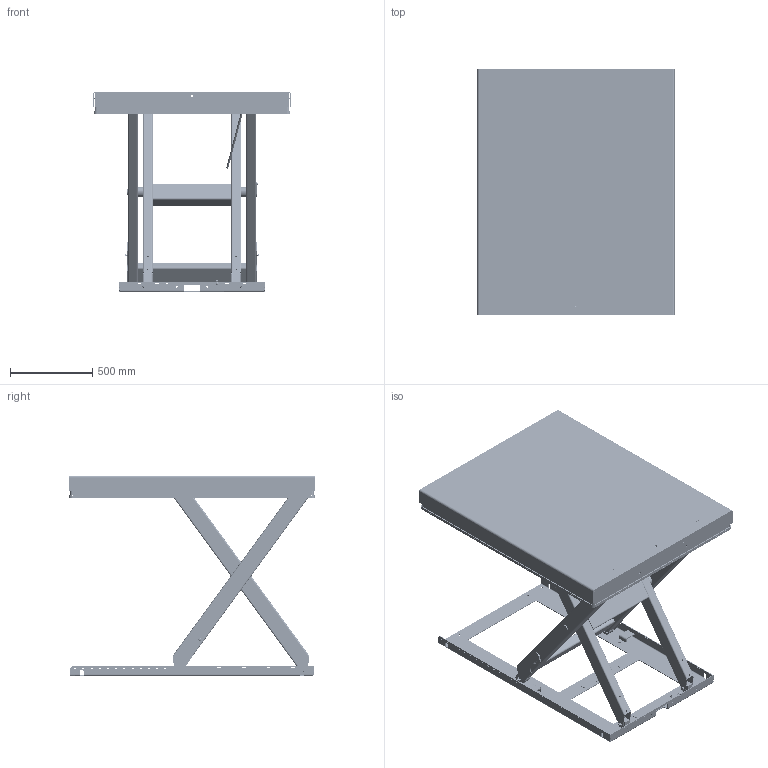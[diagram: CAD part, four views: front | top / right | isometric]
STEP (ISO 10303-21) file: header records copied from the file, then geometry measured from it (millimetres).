
FILE_DESCRIPTION(/* description */ ('TB 2000B (1500x1200)'),/* implementation_level */ '2;1');
FILE_NAME(/* name */ 'C:\Autodesk_VaultWork\Ritningar\Exporterade modeller\TB 2000B - (22254)\22254_Elevated.stp',/* time_stamp */ '2018-04-12T13:25:28+02:00',/* author */ ('HANVI'),/* organization */ (''),/* preprocessor_version */ 'ST-DEVELOPER v16.5',/* originating_system */ 'Autodesk Inventor 2017',/* authorisation */ '');
FILE_SCHEMA (('AUTOMOTIVE_DESIGN { 1 0 10303 214 3 1 1 }'));
Products named in the file (81): 22254; 36621; 36621-1; 44870; 36617; 36616; 36613-2; 82148-1310; 82159 - 660; 36615; 36613-1; 82148-1310_1; 82732 - 478; 44247; 82510; 612192; 33605C; 80000 - 792; 36620; 36620-1; 45259; 41333-820; 45387; 42754; 85955; 80131; 32708; 610084; 42289-1455; 42289-1155; 43481; 42330; 33990; 33991; 44283; 44280; 44279; Compression-Spring-SF-TF1272-SS1774-04-Lesjofors-STEP; ISO 7089 - 5 - 140 HV; 84253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
Assembly tree (152 placements, depth 5):
  22254
    36621
      36621-1
      45259  x2
      44870  x2
    36617
      36616
        36613-2  x2
          82148-1310
        82159 - 660
      36615
        36613-1  x2
          82148-1310_1
        82732 - 478
        44247  x2
      82510  x2
      82021
      612192
        33605C
        80000 - 792
    36620
      36620-1
      45259  x2
      41333-820
      45387  x6
      42754  x2
      85955
      80131  x4
    82021  x2
    32708  x2
    610084
      42289-1455  x2
      42289-1155  x2
      43481  x4
      42330  x4
      33990  x2
        33991
        44283
        44280
        44279
        Compression-Spring-SF-TF1272-SS1774-04-Lesjofors-STEP
        ISO 7089 - 5 - 140 HV
        84253
        44281
          44281-1
          ISO 2009 - M4 x 12
        84076
        83928
        44277
        44278
        33992
        ISO 7380 - M4 x 10
      611843  x4
      83552  x4
    608295
      42509
      43841
      33048
      43216
      83244
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Bounding box: 1200.2 x 1500.2 x 1221 mm (x, y, z)
Volume: 30996833.2 mm3; surface area: 13056494.2 mm2
Topology: 166 solids, 166 shells, 7380 faces, 18741 edges, 11735 vertices
Faces by surface type: plane 3240, cylinder 2372, cone 797, bspline 520, torus 330, sphere 121
Full cylindrical faces by diameter (mm): 0.474 x2, 1 x4, 3 x4, 3.141 x4, 3.2 x4, 3.242 x4, 4 x14, 4.3 x4, 4.445 x4, 4.9 x2, 4.917 x1, 5 x4, 5.156 x4, 5.2 x6, 5.3 x4, 5.55 x2, 5.969 x4, 6 x1, 6.4 x2, 6.647 x4, 6.7 x1, 6.8 x8, 7.4 x8, 7.6 x4, 8 x14, 8.5 x4, 8.9 x1, 9 x1, 10 x6, 10.5 x16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
Entity records: 104645 total; most frequent: CARTESIAN_POINT 25083, DIRECTION 16349, ORIENTED_EDGE 15808, EDGE_CURVE 7903, AXIS2_PLACEMENT_3D 5805, VERTEX_POINT 5169, LINE 4739, VECTOR 4739
